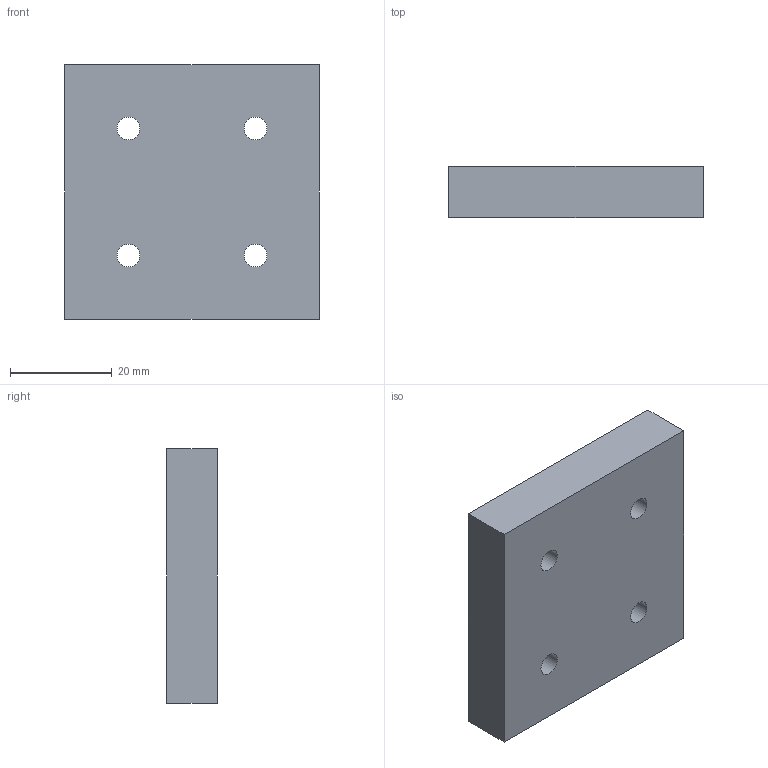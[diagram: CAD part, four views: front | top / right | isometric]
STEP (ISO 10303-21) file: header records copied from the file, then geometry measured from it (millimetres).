
FILE_DESCRIPTION(/* description */ (''),/* implementation_level */ '2;1');
FILE_NAME(/* name */ 'square-2x2.stp',/* time_stamp */ '2026-04-10T09:56:16+08:00',/* author */ ('32769'),/* organization */ (''),/* preprocessor_version */ 'ST-DEVELOPER v20',/* originating_system */ 'Autodesk Inventor 2025',/* authorisation */ '');
FILE_SCHEMA (('AUTOMOTIVE_DESIGN { 1 0 10303 214 3 1 1 }'));
Length unit declared in the file: millimetre
Products named in the file (1): square-2x2
Bounding box: 50 x 10 x 50 mm (x, y, z)
Volume: 24363.8 mm3; surface area: 7438.3 mm2
Topology: 1 solids, 1 shells, 10 faces, 24 edges, 16 vertices
Faces by surface type: plane 6, cylinder 4
Full cylindrical faces by diameter (mm): 4.5 x4
Entity records: 355 total; most frequent: DIRECTION 54, CARTESIAN_POINT 51, ORIENTED_EDGE 48, EDGE_CURVE 24, AXIS2_PLACEMENT_3D 19, EDGE_LOOP 18, LINE 16, VECTOR 16
